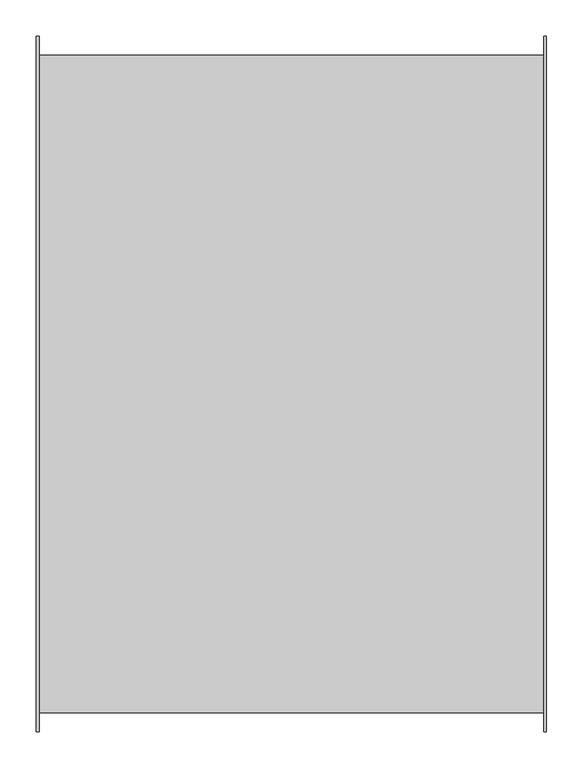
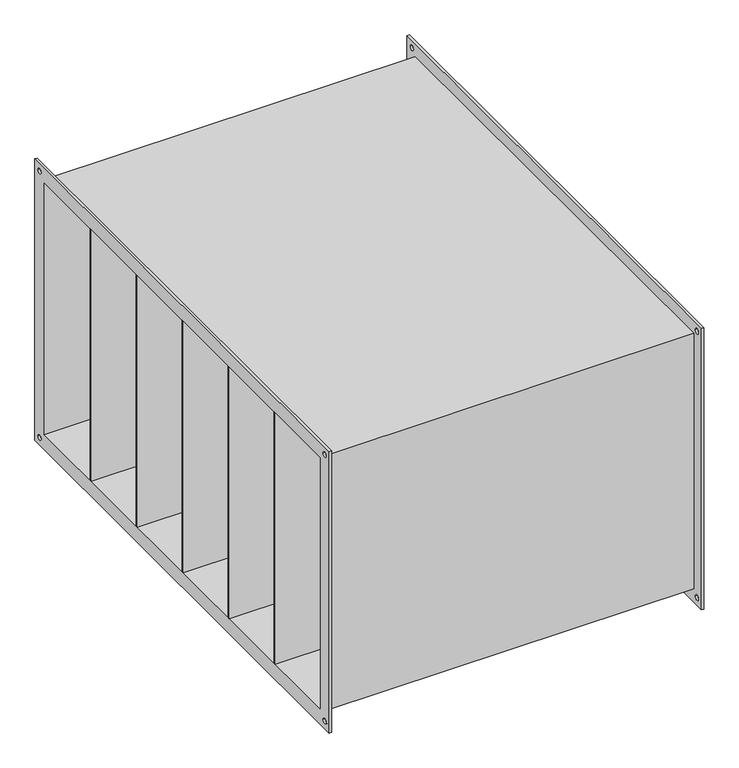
"""IFC4 building model written with IfcOpenShell, lengths in millimetres: damper geometry, СВ_ФильтрКарманный_КанальныйПрямоугольный_200-1000_SFPK : SFPK-900x500."""

from ifc_helpers import new_model, si_unit, frame, origin, place, context, project, spatial, polyline, circle_curve, outline, extrude, source, transform, mapped, element, save
from ifc_brep_helpers import plane_surface, revolved_surface, advanced_brep


def damper_a22f18f7(model_context):
    return source(origin(), model_context, "Body", "SolidModel", [
        extrude(outline(polyline([(352.5, 300.0), (352.5, 296.0), (-352.5, 296.0), (-352.5, 300.0), (352.5, 300.0)])), frame((0.0, 0.0, -250.0), z_axis=(0.0, 0.0, 1.0), x_axis=(1.0, 0.0, 0.0)), (0.0, 0.0, 1.0), 500.0),
        extrude(outline(polyline([(352.5, 150.0), (352.5, 146.0), (-352.5, 146.0), (-352.5, 150.0), (352.5, 150.0)])), frame((0.0, 0.0, -250.0), z_axis=(0.0, 0.0, 1.0), x_axis=(1.0, 0.0, 0.0)), (0.0, 0.0, 1.0), 500.0),
        extrude(outline(polyline([(352.5, 0.0), (352.5, -4.0), (-352.5, -4.0), (-352.5, 0.0), (352.5, 0.0)])), frame((0.0, 0.0, -250.0), z_axis=(0.0, 0.0, 1.0), x_axis=(1.0, 0.0, 0.0)), (0.0, 0.0, 1.0), 500.0),
        extrude(outline(polyline([(352.5, -150.0), (352.5, -154.0), (-352.5, -154.0), (-352.5, -150.0), (352.5, -150.0)])), frame((0.0, 0.0, -250.0), z_axis=(0.0, 0.0, 1.0), x_axis=(1.0, 0.0, 0.0)), (0.0, 0.0, 1.0), 500.0),
        extrude(outline(polyline([(352.5, -300.0), (352.5, -304.0), (-352.5, -304.0), (-352.5, -300.0), (352.5, -300.0)])), frame((0.0, 0.0, -250.0), z_axis=(0.0, 0.0, 1.0), x_axis=(1.0, 0.0, 0.0)), (0.0, 0.0, 1.0), 500.0),
        advanced_brep(
        [(348.5, -454.0, 254.0), (-348.5, -454.0, 254.0), (-348.5, -454.0, -254.0), (348.5, -454.0, -254.0), (-348.5, 454.0, -254.0), (348.5, 454.0, -254.0), (-348.5, 454.0, 254.0), (348.5, 454.0, 254.0), (-352.5, -480.0, 280.0), (-352.5, 480.0, 280.0), (-352.5, 480.0, -280.0), (-352.5, -480.0, -280.0), (-352.5, -450.0, 250.0), (-352.5, -450.0, -250.0), (-352.5, 450.0, -250.0), (-352.5, 450.0, 250.0), (-352.5, 460.0, 265.0), (-352.5, 470.0, 265.0), (-352.5, -470.0, 265.0), (-352.5, -460.0, 265.0), (-352.5, -470.0, -265.0), (-352.5, -460.0, -265.0), (-352.5, 460.0, -265.0), (-352.5, 470.0, -265.0), (-348.5, -480.0, 280.0), (-348.5, -480.0, -280.0), (-348.5, 480.0, -280.0), (-348.5, 480.0, 280.0), (-348.5, 470.0, 265.0), (-348.5, 460.0, 265.0), (-348.5, -460.0, 265.0), (-348.5, -470.0, 265.0), (-348.5, -460.0, -265.0), (-348.5, -470.0, -265.0), (-348.5, 470.0, -265.0), (-348.5, 460.0, -265.0), (348.5, 480.0, 280.0), (348.5, 480.0, -280.0), (348.5, -480.0, -280.0), (348.5, -480.0, 280.0), (348.5, 460.0, 265.0), (348.5, 470.0, 265.0), (348.5, -470.0, 265.0), (348.5, -460.0, 265.0), (348.5, -470.0, -265.0), (348.5, -460.0, -265.0), (348.5, 460.0, -265.0), (348.5, 470.0, -265.0), (352.5, 480.0, 280.0), (352.5, -480.0, 280.0), (352.5, -480.0, -280.0), (352.5, 480.0, -280.0), (352.5, 450.0, 250.0), (352.5, 450.0, -250.0), (352.5, -450.0, -250.0), (352.5, -450.0, 250.0), (352.5, 470.0, 265.0), (352.5, 460.0, 265.0), (352.5, -460.0, 265.0), (352.5, -470.0, 265.0), (352.5, -460.0, -265.0), (352.5, -470.0, -265.0), (352.5, 470.0, -265.0), (352.5, 460.0, -265.0)],
        [
            (0, 1),
            (1, 2),
            (2, 3),
            (3, 0),
            (2, 4),
            (4, 5),
            (5, 3),
            (4, 6),
            (6, 7),
            (7, 5),
            (0, 7),
            (6, 1),
            (8, 9),
            (9, 10),
            (10, 11),
            (11, 8),
            (12, 13),
            (13, 14),
            (14, 15),
            (15, 12),
            (16, 17, circle_curve(frame((-352.5, 465.0, 265.0), z_axis=(1.0, 0.0, 0.0), x_axis=(0.0, 1.0, 0.0)), 5.0)),
            (17, 16, circle_curve(frame((-352.5, 465.0, 265.0), z_axis=(1.0, 0.0, 0.0), x_axis=(0.0, 1.0, 0.0)), 5.0)),
            (18, 19, circle_curve(frame((-352.5, -465.0, 265.0), z_axis=(1.0, 0.0, 0.0), x_axis=(0.0, 1.0, 0.0)), 5.0)),
            (19, 18, circle_curve(frame((-352.5, -465.0, 265.0), z_axis=(1.0, 0.0, 0.0), x_axis=(0.0, 1.0, 0.0)), 5.0)),
            (20, 21, circle_curve(frame((-352.5, -465.0, -265.0), z_axis=(1.0, 0.0, 0.0), x_axis=(0.0, 1.0, 0.0)), 5.0)),
            (21, 20, circle_curve(frame((-352.5, -465.0, -265.0), z_axis=(1.0, 0.0, 0.0), x_axis=(0.0, 1.0, 0.0)), 5.0)),
            (22, 23, circle_curve(frame((-352.5, 465.0, -265.0), z_axis=(1.0, 0.0, 0.0), x_axis=(0.0, 1.0, 0.0)), 5.0)),
            (23, 22, circle_curve(frame((-352.5, 465.0, -265.0), z_axis=(1.0, 0.0, 0.0), x_axis=(0.0, 1.0, 0.0)), 5.0)),
            (24, 25),
            (25, 26),
            (26, 27),
            (27, 24),
            (28, 29, circle_curve(frame((-348.5, 465.0, 265.0), z_axis=(-1.0, 0.0, 0.0), x_axis=(0.0, 1.0, 0.0)), 5.0)),
            (29, 28, circle_curve(frame((-348.5, 465.0, 265.0), z_axis=(-1.0, 0.0, 0.0), x_axis=(0.0, 1.0, 0.0)), 5.0)),
            (30, 31, circle_curve(frame((-348.5, -465.0, 265.0), z_axis=(-1.0, 0.0, 0.0), x_axis=(0.0, 1.0, 0.0)), 5.0)),
            (31, 30, circle_curve(frame((-348.5, -465.0, 265.0), z_axis=(-1.0, 0.0, 0.0), x_axis=(0.0, 1.0, 0.0)), 5.0)),
            (32, 33, circle_curve(frame((-348.5, -465.0, -265.0), z_axis=(-1.0, 0.0, 0.0), x_axis=(0.0, 1.0, 0.0)), 5.0)),
            (33, 32, circle_curve(frame((-348.5, -465.0, -265.0), z_axis=(-1.0, 0.0, 0.0), x_axis=(0.0, 1.0, 0.0)), 5.0)),
            (34, 35, circle_curve(frame((-348.5, 465.0, -265.0), z_axis=(-1.0, 0.0, 0.0), x_axis=(0.0, 1.0, 0.0)), 5.0)),
            (35, 34, circle_curve(frame((-348.5, 465.0, -265.0), z_axis=(-1.0, 0.0, 0.0), x_axis=(0.0, 1.0, 0.0)), 5.0)),
            (11, 25),
            (24, 8),
            (10, 26),
            (9, 27),
            (36, 37),
            (37, 38),
            (38, 39),
            (39, 36),
            (40, 41, circle_curve(frame((348.5, 465.0, 265.0), z_axis=(1.0, 0.0, 0.0), x_axis=(0.0, 1.0, 0.0)), 5.0)),
            (41, 40, circle_curve(frame((348.5, 465.0, 265.0), z_axis=(1.0, 0.0, 0.0), x_axis=(0.0, 1.0, 0.0)), 5.0)),
            (42, 43, circle_curve(frame((348.5, -465.0, 265.0), z_axis=(1.0, 0.0, 0.0), x_axis=(0.0, 1.0, 0.0)), 5.0)),
            (43, 42, circle_curve(frame((348.5, -465.0, 265.0), z_axis=(1.0, 0.0, 0.0), x_axis=(0.0, 1.0, 0.0)), 5.0)),
            (44, 45, circle_curve(frame((348.5, -465.0, -265.0), z_axis=(1.0, 0.0, 0.0), x_axis=(0.0, 1.0, 0.0)), 5.0)),
            (45, 44, circle_curve(frame((348.5, -465.0, -265.0), z_axis=(1.0, 0.0, 0.0), x_axis=(0.0, 1.0, 0.0)), 5.0)),
            (46, 47, circle_curve(frame((348.5, 465.0, -265.0), z_axis=(1.0, 0.0, 0.0), x_axis=(0.0, 1.0, 0.0)), 5.0)),
            (47, 46, circle_curve(frame((348.5, 465.0, -265.0), z_axis=(1.0, 0.0, 0.0), x_axis=(0.0, 1.0, 0.0)), 5.0)),
            (48, 49),
            (49, 50),
            (50, 51),
            (51, 48),
            (52, 53),
            (53, 54),
            (54, 55),
            (55, 52),
            (56, 57, circle_curve(frame((352.5, 465.0, 265.0), z_axis=(-1.0, 0.0, 0.0), x_axis=(0.0, 1.0, 0.0)), 5.0)),
            (57, 56, circle_curve(frame((352.5, 465.0, 265.0), z_axis=(-1.0, 0.0, 0.0), x_axis=(0.0, 1.0, 0.0)), 5.0)),
            (58, 59, circle_curve(frame((352.5, -465.0, 265.0), z_axis=(-1.0, 0.0, 0.0), x_axis=(0.0, 1.0, 0.0)), 5.0)),
            (59, 58, circle_curve(frame((352.5, -465.0, 265.0), z_axis=(-1.0, 0.0, 0.0), x_axis=(0.0, 1.0, 0.0)), 5.0)),
            (60, 61, circle_curve(frame((352.5, -465.0, -265.0), z_axis=(-1.0, 0.0, 0.0), x_axis=(0.0, 1.0, 0.0)), 5.0)),
            (61, 60, circle_curve(frame((352.5, -465.0, -265.0), z_axis=(-1.0, 0.0, 0.0), x_axis=(0.0, 1.0, 0.0)), 5.0)),
            (62, 63, circle_curve(frame((352.5, 465.0, -265.0), z_axis=(-1.0, 0.0, 0.0), x_axis=(0.0, 1.0, 0.0)), 5.0)),
            (63, 62, circle_curve(frame((352.5, 465.0, -265.0), z_axis=(-1.0, 0.0, 0.0), x_axis=(0.0, 1.0, 0.0)), 5.0)),
            (39, 49),
            (48, 36),
            (38, 50),
            (37, 51),
            (15, 52),
            (55, 12),
            (14, 53),
            (13, 54),
            (16, 29),
            (28, 17),
            (40, 57),
            (56, 41),
            (18, 31),
            (30, 19),
            (42, 59),
            (58, 43),
            (20, 33),
            (32, 21),
            (44, 61),
            (60, 45),
            (22, 35),
            (34, 23),
            (46, 63),
            (62, 47),
        ],
        [
            plane_surface(frame((348.5, -454.0, 254.0), z_axis=(0.0, -1.0, 0.0), x_axis=(-1.0, 0.0, 0.0))),
            plane_surface(frame((348.5, -454.0, -254.0), z_axis=(0.0, 0.0, -1.0), x_axis=(-1.0, 0.0, 0.0))),
            plane_surface(frame((348.5, 454.0, -254.0), z_axis=(0.0, 1.0, 0.0), x_axis=(-1.0, 0.0, 0.0))),
            plane_surface(frame((348.5, 454.0, 254.0), z_axis=(0.0, 0.0, 1.0), x_axis=(-1.0, 0.0, 0.0))),
            plane_surface(frame((-352.5, -480.0, 280.0), z_axis=(-1.0, 0.0, 0.0), x_axis=(0.0, 0.0, 1.0))),
            plane_surface(frame((-348.5, -480.0, 280.0), z_axis=(1.0, 0.0, 0.0), x_axis=(0.0, 0.0, -1.0))),
            plane_surface(frame((-348.5, -480.0, 280.0), z_axis=(0.0, -1.0, 0.0), x_axis=(-1.0, 0.0, 0.0))),
            plane_surface(frame((-348.5, -480.0, -280.0), z_axis=(0.0, 0.0, -1.0), x_axis=(-1.0, 0.0, 0.0))),
            plane_surface(frame((-348.5, 480.0, -280.0), z_axis=(0.0, 1.0, 0.0), x_axis=(-1.0, 0.0, 0.0))),
            plane_surface(frame((-348.5, 480.0, 280.0), z_axis=(0.0, 0.0, 1.0), x_axis=(-1.0, 0.0, 0.0))),
            plane_surface(frame((348.5, 450.0, -250.0), z_axis=(-1.0, 0.0, 0.0), x_axis=(0.0, 0.0, 1.0))),
            plane_surface(frame((352.5, 450.0, -250.0), z_axis=(1.0, 0.0, 0.0), x_axis=(0.0, 0.0, -1.0))),
            plane_surface(frame((352.5, 480.0, 280.0), z_axis=(0.0, 0.0, 1.0), x_axis=(-1.0, 0.0, 0.0))),
            plane_surface(frame((352.5, -480.0, 280.0), z_axis=(0.0, -1.0, 0.0), x_axis=(-1.0, 0.0, 0.0))),
            plane_surface(frame((352.5, -480.0, -280.0), z_axis=(0.0, 0.0, -1.0), x_axis=(-1.0, 0.0, 0.0))),
            plane_surface(frame((352.5, 480.0, -280.0), z_axis=(0.0, 1.0, 0.0), x_axis=(-1.0, 0.0, 0.0))),
            plane_surface(frame((-348.5, -450.0, 250.0), z_axis=(0.0, 0.0, -1.0), x_axis=(-1.0, 0.0, 0.0))),
            plane_surface(frame((-348.5, 450.0, 250.0), z_axis=(0.0, -1.0, 0.0), x_axis=(-1.0, 0.0, 0.0))),
            plane_surface(frame((-348.5, 450.0, -250.0), z_axis=(0.0, 0.0, 1.0), x_axis=(-1.0, 0.0, 0.0))),
            plane_surface(frame((-348.5, -450.0, -250.0), z_axis=(0.0, 1.0, 0.0), x_axis=(-1.0, 0.0, 0.0))),
            revolved_surface(polyline([(-348.5, 470.0, 265.0), (-352.5, 470.0, 265.0)]), (-352.5, 465.0, 265.0), (1.0, 0.0, 0.0)),
            revolved_surface(polyline([(352.5, 470.0, 265.0), (348.5, 470.0, 265.0)]), (-352.5, 465.0, 265.0), (1.0, 0.0, 0.0)),
            revolved_surface(polyline([(-348.5, -460.0, 265.0), (-352.5, -460.0, 265.0)]), (0.0, -465.0, 265.0), (1.0, 0.0, 0.0)),
            revolved_surface(polyline([(352.5, -460.0, 265.0), (348.5, -460.0, 265.0)]), (0.0, -465.0, 265.0), (1.0, 0.0, 0.0)),
            revolved_surface(polyline([(-348.5, -460.0, -265.0), (-352.5, -460.0, -265.0)]), (0.0, -465.0, -265.0), (1.0, 0.0, 0.0)),
            revolved_surface(polyline([(352.5, -460.0, -265.0), (348.5, -460.0, -265.0)]), (0.0, -465.0, -265.0), (1.0, 0.0, 0.0)),
            revolved_surface(polyline([(-348.5, 470.0, -265.0), (-352.5, 470.0, -265.0)]), (0.0, 465.0, -265.0), (1.0, 0.0, 0.0)),
            revolved_surface(polyline([(352.5, 470.0, -265.0), (348.5, 470.0, -265.0)]), (0.0, 465.0, -265.0), (1.0, 0.0, 0.0)),
        ],
        [
            (0, [[1, 2, 3, 4]]),
            (1, [[-3, 5, 6, 7]]),
            (2, [[-6, 8, 9, 10]]),
            (3, [[-1, 11, -9, 12]]),
            (4, [[13, 14, 15, 16], [17, 18, 19, 20], [21, 22], [23, 24], [25, 26], [27, 28]]),
            (5, [[29, 30, 31, 32], [-2, -12, -8, -5], [33, 34], [35, 36], [37, 38], [39, 40]]),
            (6, [[-16, 41, -29, 42]]),
            (7, [[-15, 43, -30, -41]]),
            (8, [[-14, 44, -31, -43]]),
            (9, [[-13, -42, -32, -44]]),
            (10, [[45, 46, 47, 48], [-4, -7, -10, -11], [49, 50], [51, 52], [53, 54], [55, 56]]),
            (11, [[57, 58, 59, 60], [61, 62, 63, 64], [65, 66], [67, 68], [69, 70], [71, 72]]),
            (12, [[-48, 73, -57, 74]]),
            (13, [[-47, 75, -58, -73]]),
            (14, [[-46, 76, -59, -75]]),
            (15, [[-45, -74, -60, -76]]),
            (16, [[-20, 77, -64, 78]]),
            (17, [[-77, -19, 79, -61]]),
            (18, [[-79, -18, 80, -62]]),
            (19, [[-80, -17, -78, -63]]),
            (20, [[81, -33, 82, -21]]),
            (21, [[83, -65, 84, -49]]),
            (20, [[-81, -22, -82, -34]]),
            (21, [[-83, -50, -84, -66]]),
            (22, [[85, -35, 86, -23]]),
            (23, [[87, -67, 88, -51]]),
            (22, [[-85, -24, -86, -36]]),
            (23, [[-87, -52, -88, -68]]),
            (24, [[89, -37, 90, -25]]),
            (25, [[91, -69, 92, -53]]),
            (24, [[-89, -26, -90, -38]]),
            (25, [[-91, -54, -92, -70]]),
            (26, [[93, -39, 94, -27]]),
            (27, [[95, -71, 96, -55]]),
            (26, [[-93, -28, -94, -40]]),
            (27, [[-95, -56, -96, -72]]),
        ],
    ),
    ])


if __name__ == "__main__":
    model = new_model("IFC4")
    model_context = context("Model", 3, world=origin())
    ifc_project = project(units=[si_unit("LENGTHUNIT", "METRE", prefix="MILLI")], contexts=[model_context])
    site = spatial("IfcSite", under=ifc_project)
    building = spatial("IfcBuilding", under=site)
    placement = place(None, origin())
    damper_shape = damper_a22f18f7(model_context)
    element("IfcDamper", 1, ObjectType="СВ_ФильтрКарманный_КанальныйПрямоугольный_200-1000_SFPK : SFPK-900x500", at=placement, inside=building, context=model_context, shape_type="MappedRepresentation", body=[
        mapped(damper_shape, transform((0.0, 0.0, 0.0), x_axis=(1.0, 0.0, 0.0), y_axis=(0.0, 1.0, 0.0), z_axis=(0.0, 0.0, 1.0))),
    ])
    save(model, "model.ifc")
